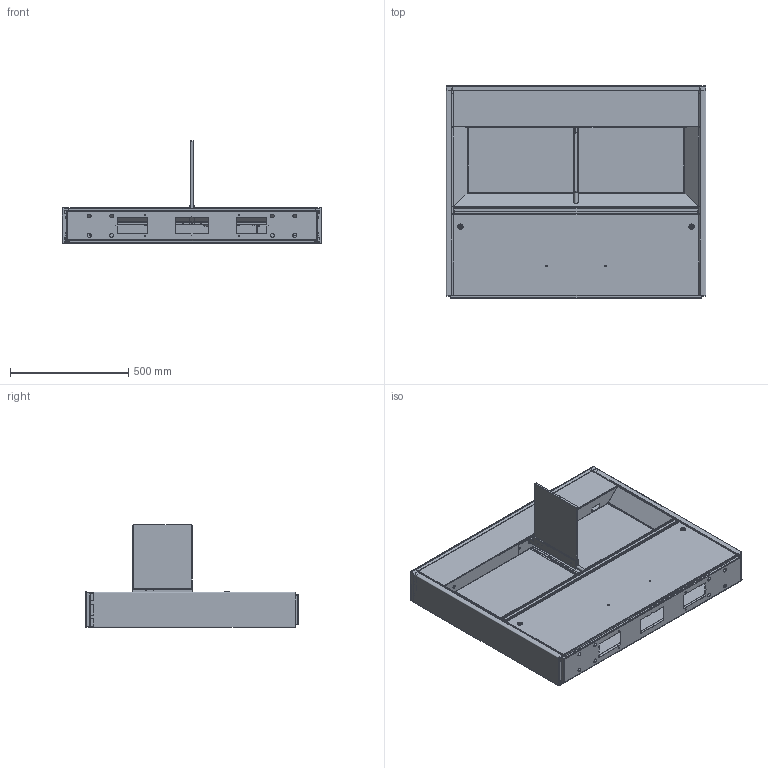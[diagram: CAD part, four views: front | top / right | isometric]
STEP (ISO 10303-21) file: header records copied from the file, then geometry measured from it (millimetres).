
FILE_DESCRIPTION (( 'STEP AP214' ), '1' );
FILE_NAME ('ライトゲート_サイドM【標準】.STEP', '2023-02-20T06:25:14', ( 'cadcl' ), ( 'Hewlett-Packard Company' ), 'SwSTEP 2.0', 'SolidWorks 2022', '' );
FILE_SCHEMA (( 'AUTOMOTIVE_DESIGN' ));
Length unit declared in the file: millimetre
Products named in the file (48): 201-06292-65; 201-06295-62; ライトゲート_サイドM【標準】; 201-06291-58; 301-06197-00_施錠; 201-06290-15_面発光あり; 201-06292-35; 201-06295-50; 201-06290-02; 201-06291-29_デフォルト; 201-06290-04; 301-06197-01_施錠; 201-06291-43; 201-06292-36; 201-06292-45; 201-06291-78; 201-06291-57; 201-06291-83; 201-06292-43; 201-06295-23; 201-06290-01; 201-06295-56; 201-05997-02; 201-06291-30; 201-06290-16; 201-06327-61; 201-06295-54; 201-06291-01; 201-06295-58; Z03-00314-00; 201-06290-00; 201-06292-56; 201-06295-61; 201-06291-31; 201-06291-02; 201-06291-28_デフォルト; 201-06292-59; 201-06295-29; 201-06292-34; 201-06292-90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
Assembly tree (50 placements, depth 5):
  ライトゲート_サイドM【標準】
    201-06291-83
      201-06292-56
        201-06291-02
          201-06291-01
      201-06291-14
        201-06291-09
        201-06290-01
      201-06291-57
        201-06295-50
        201-06290-01
      201-06295-23
        201-06295-54
        201-06295-56
        201-06290-00
      201-06291-19
        201-06295-29
        301-06197-00_施錠
        301-06197-01_施錠
      201-06291-31
        201-06291-30
      201-06292-34
        201-06292-35
      201-06292-65
        201-06290-02
      201-06291-43
        201-06292-45
      201-06291-75_閉状態
        201-06292-90
          201-06292-36
        201-06295-58
          201-06291-51
      201-06291-28_デフォルト
      201-06291-29_デフォルト
      201-06291-58
      201-06292-43
      Z03-00314-00  x2
    201-06291-39
      201-06290-16
        201-06290-15_面発光あり
    201-06292-44
    201-06294-91
      201-06290-02
    201-06327-61
      201-05997-02
    201-06290-04
    201-06295-61
      201-06291-78
    201-06295-62
      201-06292-59
Bounding box: 1100 x 900 x 435 mm (x, y, z)
Volume: 5705779.2 mm3; surface area: 6034838.9 mm2
Topology: 30 solids, 30 shells, 2638 faces, 6897 edges, 4322 vertices
Faces by surface type: plane 1782, cylinder 693, bspline 77, cone 74, sphere 12
Entity records: 79119 total; most frequent: CARTESIAN_POINT 16306, ORIENTED_EDGE 12814, DIRECTION 12169, EDGE_CURVE 6407, VECTOR 4845, LINE 4845, VERTEX_POINT 4007, AXIS2_PLACEMENT_3D 3662
